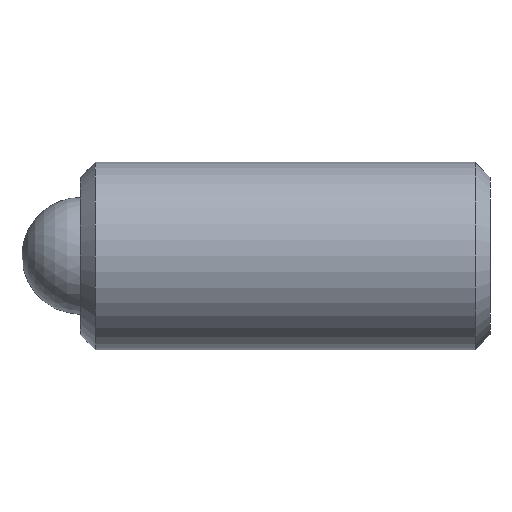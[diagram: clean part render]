
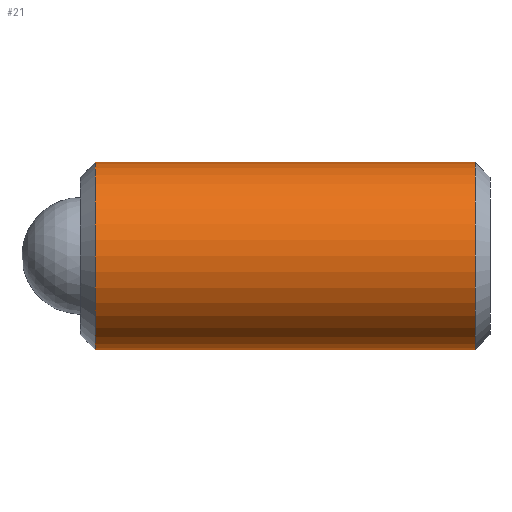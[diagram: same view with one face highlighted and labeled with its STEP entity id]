
A CAD part, front view. The second image highlights one B-rep face of the part: STEP entity #21.
In plain terms, the highlighted cylindrical face has radius 3.175 mm (diameter 6.35 mm), a partial arc.
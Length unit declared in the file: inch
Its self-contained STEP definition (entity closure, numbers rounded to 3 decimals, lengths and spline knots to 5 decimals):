
#20 = CARTESIAN_POINT ( 'NONE',  ( 0.52687, 0., 0. ) ) ;
#21 = ADVANCED_FACE ( 'NONE', ( #376 ), #304, .T. ) ;
#31 = EDGE_CURVE ( 'NONE', #379, #591, #303, .T. ) ;
#53 = DIRECTION ( 'NONE',  ( -1., 0., 0. ) ) ;
#65 = EDGE_CURVE ( 'NONE', #379, #419, #281, .T. ) ;
#78 = CARTESIAN_POINT ( 'NONE',  ( 0.02, 0., -0.125 ) ) ;
#84 = EDGE_CURVE ( 'NONE', #591, #437, #268, .T. ) ;
#143 = EDGE_CURVE ( 'NONE', #437, #419, #174, .T. ) ;
#153 = DIRECTION ( 'NONE',  ( 0., 0., 1. ) ) ;
#174 = CIRCLE ( 'NONE', #590, 0.125 ) ;
#185 = DIRECTION ( 'NONE',  ( -1., 0., 0. ) ) ;
#222 = DIRECTION ( 'NONE',  ( 0., 0., -1. ) ) ;
#233 = DIRECTION ( 'NONE',  ( -1., 0., 0. ) ) ;
#261 = VECTOR ( 'NONE', #233, 39.37008 ) ;
#268 = LINE ( 'NONE', #440, #261 ) ;
#277 = VECTOR ( 'NONE', #53, 39.37008 ) ;
#281 = LINE ( 'NONE', #545, #277 ) ;
#303 = CIRCLE ( 'NONE', #497, 0.125 ) ;
#304 = CYLINDRICAL_SURFACE ( 'NONE', #330, 0.125 ) ;
#324 = CARTESIAN_POINT ( 'NONE',  ( 0.02, 0., 0. ) ) ;
#326 = DIRECTION ( 'NONE',  ( 1., 0., 0. ) ) ;
#329 = ORIENTED_EDGE ( 'NONE', *, *, #143, .T. ) ;
#330 = AXIS2_PLACEMENT_3D ( 'NONE', #342, #491, #153 ) ;
#342 = CARTESIAN_POINT ( 'NONE',  ( 0.54688, 0., 0. ) ) ;
#354 = CARTESIAN_POINT ( 'NONE',  ( 0.52687, 0., -0.125 ) ) ;
#376 = FACE_OUTER_BOUND ( 'NONE', #574, .T. ) ;
#379 = VERTEX_POINT ( 'NONE', #354 ) ;
#419 = VERTEX_POINT ( 'NONE', #78 ) ;
#437 = VERTEX_POINT ( 'NONE', #516 ) ;
#440 = CARTESIAN_POINT ( 'NONE',  ( 0.54688, 0., 0.125 ) ) ;
#457 = DIRECTION ( 'NONE',  ( 0., 0., -1. ) ) ;
#474 = ORIENTED_EDGE ( 'NONE', *, *, #84, .T. ) ;
#491 = DIRECTION ( 'NONE',  ( -1., 0., 0. ) ) ;
#497 = AXIS2_PLACEMENT_3D ( 'NONE', #20, #185, #457 ) ;
#516 = CARTESIAN_POINT ( 'NONE',  ( 0.02, 0., 0.125 ) ) ;
#530 = ORIENTED_EDGE ( 'NONE', *, *, #65, .F. ) ;
#545 = CARTESIAN_POINT ( 'NONE',  ( 0.54688, 0., -0.125 ) ) ;
#574 = EDGE_LOOP ( 'NONE', ( #530, #603, #474, #329 ) ) ;
#590 = AXIS2_PLACEMENT_3D ( 'NONE', #324, #326, #222 ) ;
#591 = VERTEX_POINT ( 'NONE', #618 ) ;
#603 = ORIENTED_EDGE ( 'NONE', *, *, #31, .T. ) ;
#618 = CARTESIAN_POINT ( 'NONE',  ( 0.52687, 0., 0.125 ) ) ;
